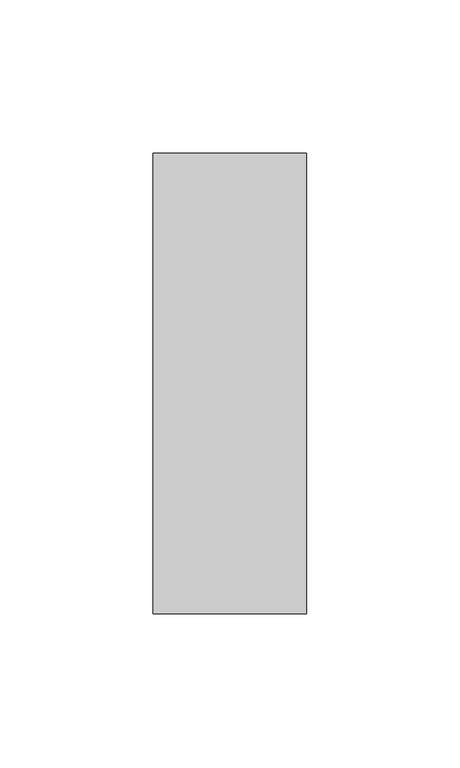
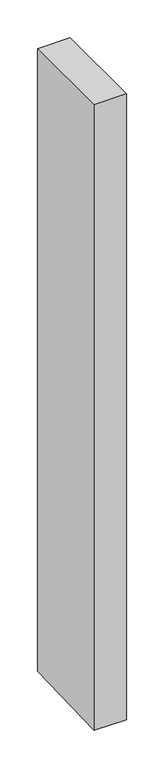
"""IFC4 building model written with IfcOpenShell, lengths in millimetres: member geometry, Прямоугольный импост : 50 x 150 мм."""

from ifc_helpers import new_model, si_unit, origin, place, context, project, spatial, faceted_brep, source, transform, mapped, element, save


def member_57d8418e(model_context):
    return source(origin(), model_context, "Body", "Brep", [
        faceted_brep([(-25.0, 75.0, -0.3817645), (25.0, 75.0, 0.1530314), (25.0, 75.0, -1009.0895988), (-25.0, 75.0, -1008.5713529), (-25.0, -75.0, -0.1530314), (-25.0, -75.0, -1013.0965165), (25.0, -75.0, 0.3817645), (25.0, -75.0, -1013.6147624)], [[[0, 1, 2, 3]], [[4, 0, 3, 5]], [[6, 4, 5, 7]], [[1, 6, 7, 2]], [[1, 0, 4, 6]], [[2, 7, 5, 3]]]),
    ])


if __name__ == "__main__":
    model = new_model("IFC4")
    model_context = context("Model", 3, world=origin())
    ifc_project = project(units=[si_unit("LENGTHUNIT", "METRE", prefix="MILLI")], contexts=[model_context])
    site = spatial("IfcSite", under=ifc_project)
    building = spatial("IfcBuilding", under=site)
    placement = place(None, origin())
    member_shape = member_57d8418e(model_context)
    element("IfcMember", 1, ObjectType="Прямоугольный импост : 50 x 150 мм", at=placement, inside=building, context=model_context, shape_type="MappedRepresentation", body=[
        mapped(member_shape, transform((0.0, 0.0, 0.0), x_axis=(1.0, 0.0, 0.0), y_axis=(0.0, 1.0, 0.0), z_axis=(0.0, 0.0, 1.0))),
    ])
    save(model, "model.ifc")
